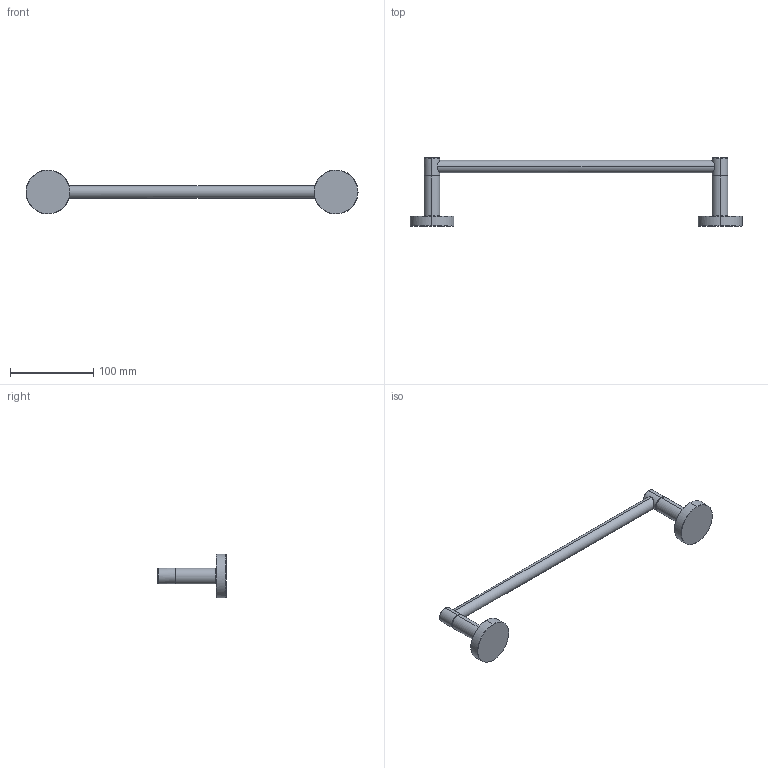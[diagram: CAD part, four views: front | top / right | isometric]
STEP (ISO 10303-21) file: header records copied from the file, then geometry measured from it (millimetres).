
FILE_DESCRIPTION(('THIS FILE CONTAINS SOME STEP INSTANCES'),'1');
FILE_NAME('HAR 026-light.stp','2015-10-28T 7:23:16',('UNDEFINED'),('UNDEFINED'),'T-FLEX CAD STEP converter','T-FLEX CAD','');
FILE_SCHEMA(('CONFIG_CONTROL_DESIGN'));
Length unit declared in the file: metre
Products named in the file (1): 3D 鐨飹懤艜_1
Bounding box: 399.99 x 82 x 53 mm (x, y, z)
Volume: 150784.8 mm3; surface area: 36380.5 mm2
Topology: 1 solids, 1 shells, 56 faces, 112 edges, 66 vertices
Faces by surface type: cone 24, cylinder 18, plane 10, bspline 4
Entity records: 3384 total; most frequent: CARTESIAN_POINT 2387, ORIENTED_EDGE 224, DIRECTION 166, EDGE_CURVE 112, VERTEX_POINT 66, EDGE_LOOP 64, AXIS2_PLACEMENT_3D 62, ADVANCED_FACE 56
